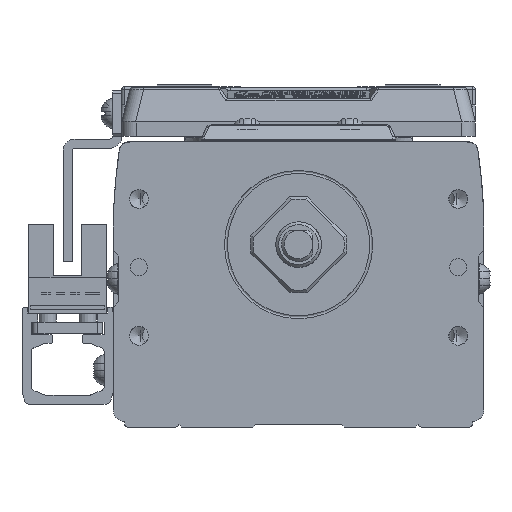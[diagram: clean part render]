
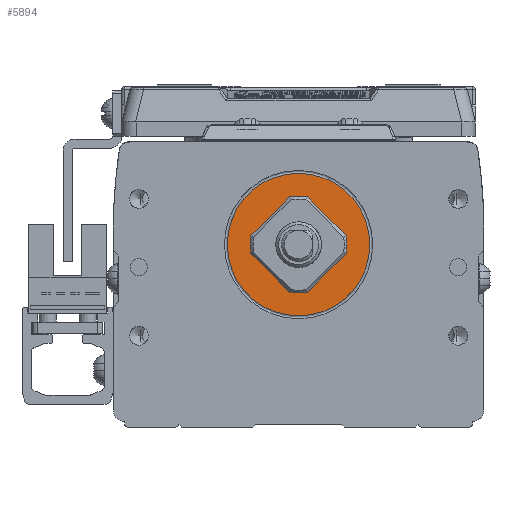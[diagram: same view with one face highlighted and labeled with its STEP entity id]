
A CAD part, left-side view. The second image highlights one B-rep face of the part: STEP entity #5894.
In plain terms, the highlighted planar face has unit normal (-1, 0, 0) as drawn and (0, 0, 1) by its records, which use the part's own axes.
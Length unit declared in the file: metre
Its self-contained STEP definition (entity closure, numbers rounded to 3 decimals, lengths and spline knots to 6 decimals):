
#5894=ADVANCED_FACE('',(#11848,#11849),#11850,.T.);
#11848=FACE_OUTER_BOUND('',#21257,.T.);
#11849=FACE_BOUND('',#21258,.T.);
#11850=PLANE('',#21259);
#21257=EDGE_LOOP('',(#35634));
#21258=EDGE_LOOP('',(#35635));
#21259=AXIS2_PLACEMENT_3D('',#35636,#35637,#35638);
#35634=ORIENTED_EDGE('',*,*,#42962,.T.);
#35635=ORIENTED_EDGE('',*,*,#42242,.F.);
#35636=CARTESIAN_POINT('',(0.000036,-0.0065,0.02));
#35637=DIRECTION('',(0.0,0.0,1.0));
#35638=DIRECTION('',(1.0,0.0,0.0));
#42242=EDGE_CURVE('',#50447,#50447,#50448,.T.);
#42962=EDGE_CURVE('',#51555,#51555,#51556,.T.);
#50447=VERTEX_POINT('',#62219);
#50448=CIRCLE('',#62220,0.004);
#51555=VERTEX_POINT('',#63770);
#51556=CIRCLE('',#63771,0.0125);
#62219=CARTESIAN_POINT('',(0.004,0.0,0.02));
#62220=AXIS2_PLACEMENT_3D('',#72585,#72586,#72587);
#63770=CARTESIAN_POINT('',(-0.0125,0.,0.02));
#63771=AXIS2_PLACEMENT_3D('',#73451,#73452,#73453);
#72585=CARTESIAN_POINT('',(0.0,0.0,0.02));
#72586=DIRECTION('',(0.0,0.0,1.0));
#72587=DIRECTION('',(-1.0,0.0,0.0));
#73451=CARTESIAN_POINT('',(0.0,0.,0.02));
#73452=DIRECTION('',(0.0,0.0,1.0));
#73453=DIRECTION('',(1.0,0.0,0.0));
